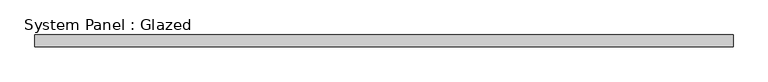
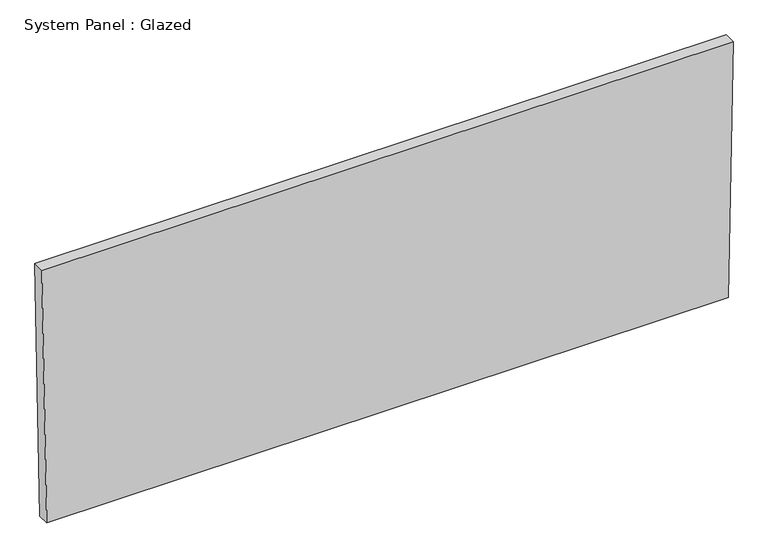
"""IFC4 building model written with IfcOpenShell, lengths in millimetres: plate geometry, System Panel : Glazed."""

from ifc_helpers import new_model, si_unit, frame, origin, place, context, project, spatial, polyline, outline, extrude, source, transform, mapped, element, save


def system_panel_glazed_a2a57e74(model_context):
    return source(origin(), model_context, "Body", "SweptSolid", [
        extrude(outline(polyline([(0.0, -739.5706547), (0.0, 739.5706547), (584.0951149, 750.4071554), (584.0951149, -750.4071554), (0.0, -739.5706547)])), frame((0.0, 19.05, 0.0), z_axis=(0.0, 1.0, 0.0), x_axis=(0.0, 0.0, 1.0)), (0.0, 0.0, 1.0), 25.4),
    ])


if __name__ == "__main__":
    model = new_model("IFC4")
    model_context = context("Model", 3, world=origin())
    ifc_project = project(units=[si_unit("LENGTHUNIT", "METRE", prefix="MILLI")], contexts=[model_context])
    site = spatial("IfcSite", under=ifc_project)
    building = spatial("IfcBuilding", under=site)
    placement = place(None, origin())
    system_panel_glazed_shape = system_panel_glazed_a2a57e74(model_context)
    element("IfcPlate", 1, ObjectType="System Panel : Glazed", at=placement, inside=building, context=model_context, shape_type="MappedRepresentation", body=[
        mapped(system_panel_glazed_shape, transform((0.0, 0.0, 0.0), x_axis=(1.0, 0.0, 0.0), y_axis=(0.0, 1.0, 0.0), z_axis=(0.0, 0.0, 1.0))),
    ])
    save(model, "model.ifc")
